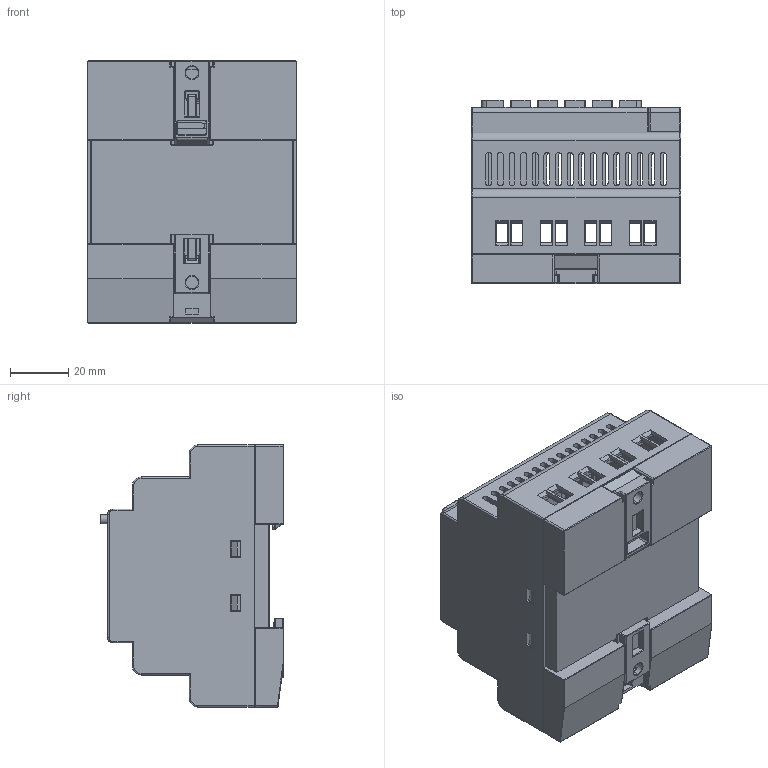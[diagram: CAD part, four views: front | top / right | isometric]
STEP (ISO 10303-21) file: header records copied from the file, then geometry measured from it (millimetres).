
FILE_DESCRIPTION (( 'STEP AP203' ), '1' );
FILE_NAME ('SR-12 Series CPU 3D.STEP', '2024-06-19T09:56:26', ( '' ), ( '' ), 'SwSTEP 2.0', 'SolidWorks 2020', '' );
FILE_SCHEMA (( 'CONFIG_CONTROL_DESIGN' ));
Length unit declared in the file: millimetre
Products named in the file (9): PR 系列长插销¤2__ú_è2__¨2; SR-12 ﾏｵﾁﾐ ﾀｩﾕｹｿﾚｸﾇ｣ｨ23-243-5｣ｩ-243-5｡鸚-243-5_ｨｺ_; SR-12 Series CPU 3D; PR 炵蹈芵隴え__‾________; HR911105A 厙釐諳__迆__“2; SR-12 炵蹈 奻裔 (23-243-2)3-2)3-2); PR 炵蹈傻脣种足2__迆“_2__“2; SR-12 炵蹈 狟裔 (23-243-1)3-1)3-1); SR-12 系列 新按键-PR-18（23-243-6）-长方形6￡_-3¤·_D_6_ê_-3_è_¤_D_
Assembly tree (8 placements, depth 2):
  SR-12 Series CPU 3D
    HR911105A 厙釐諳__迆__“2
    SR-12 炵蹈 奻裔 (23-243-2)3-2)3-2)
    SR-12 炵蹈 狟裔 (23-243-1)3-1)3-1)
    SR-12 ﾏｵﾁﾐ ﾀｩﾕｹｿﾚｸﾇ｣ｨ23-243-5｣ｩ-243-5｡鸚-243-5_ｨｺ_
    PR 炵蹈芵隴え__‾________
    PR 炵蹈傻脣种足2__迆“_2__“2
    PR 系列长插销¤2__ú_è2__¨2
    SR-12 系列 新按键-PR-18（23-243-6）-长方形6￡_-3¤·_D_6_ê_-3_è_¤_D_
Bounding box: 72 x 63 x 90 mm (x, y, z)
Volume: 68900.8 mm3; surface area: 79188.5 mm2
Topology: 8 solids, 8 shells, 1674 faces, 4321 edges, 2630 vertices
Faces by surface type: plane 904, cylinder 540, torus 126, sphere 58, cone 24, bspline 22
Entity records: 51300 total; most frequent: CARTESIAN_POINT 9404, DIRECTION 8543, ORIENTED_EDGE 8530, EDGE_CURVE 4265, VECTOR 2981, LINE 2981, AXIS2_PLACEMENT_3D 2781, VERTEX_POINT 2630
